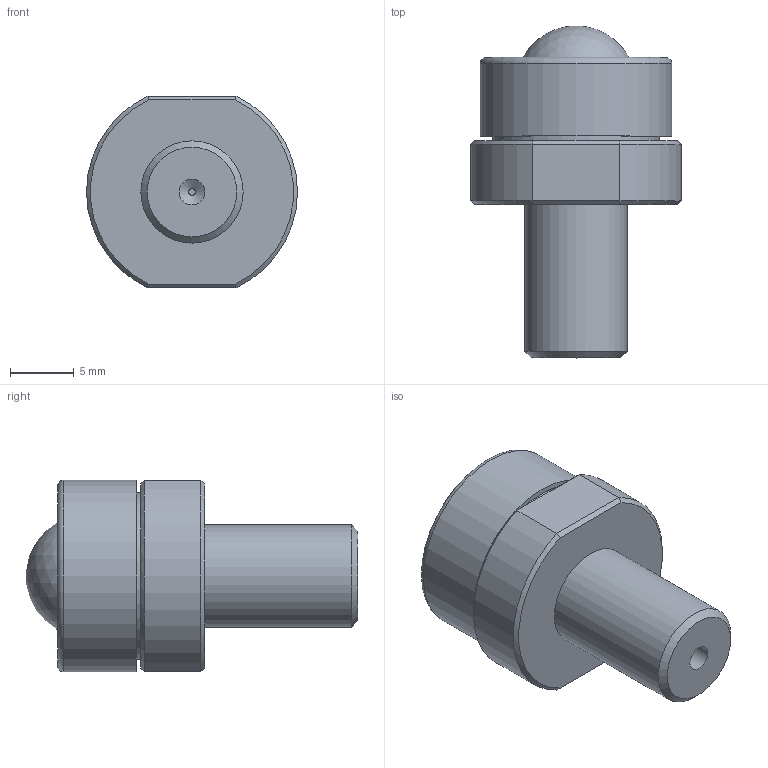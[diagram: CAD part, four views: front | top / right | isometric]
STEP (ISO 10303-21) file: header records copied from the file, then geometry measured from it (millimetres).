
FILE_DESCRIPTION(/* description */ (''),/* implementation_level */ '2;1');
FILE_NAME(/* name */ 'Z:\35-j-ito\製品モデル\ISCS\ISCS-10\社外用モデル\ISCS-10.stp',/* time_stamp */ '2021-07-16T13:35:56+09:00',/* author */ ('j-ito'),/* organization */ (''),/* preprocessor_version */ 'ST-DEVELOPER v18.1',/* originating_system */ 'Autodesk Inventor 2022',/* authorisation */ '');
FILE_SCHEMA (('AUTOMOTIVE_DESIGN { 1 0 10303 214 3 1 1 }'));
Length unit declared in the file: millimetre
Products named in the file (1): キャップ
Bounding box: 16.5 x 25.97 x 15 mm (x, y, z)
Volume: 2747.8 mm3; surface area: 1935.5 mm2
Topology: 1 solids, 1 shells, 53 faces, 117 edges, 74 vertices
Faces by surface type: plane 27, cylinder 14, cone 9, torus 2, sphere 1
Full cylindrical faces by diameter (mm): 0.5 x1, 2 x1, 8 x1, 9.2 x1, 13 x1, 13.5 x1, 13.65 x1, 15 x1
Entity records: 1508 total; most frequent: CARTESIAN_POINT 285, DIRECTION 261, ORIENTED_EDGE 234, EDGE_CURVE 117, AXIS2_PLACEMENT_3D 106, VERTEX_POINT 74, EDGE_LOOP 61, FACE_OUTER_BOUND 53
